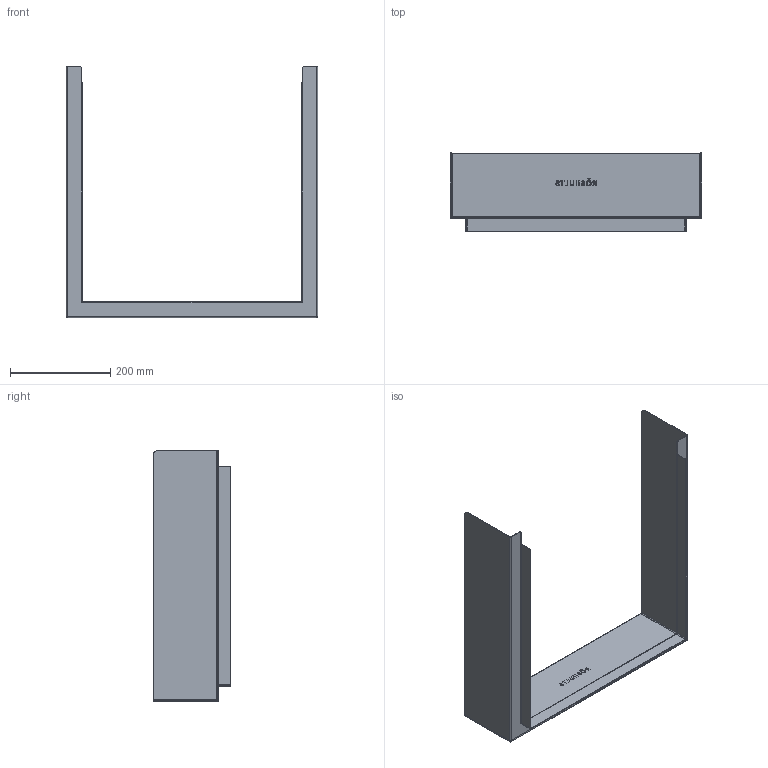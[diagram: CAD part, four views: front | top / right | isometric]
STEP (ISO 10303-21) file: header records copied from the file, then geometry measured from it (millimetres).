
FILE_DESCRIPTION(/* description */ (''),/* implementation_level */ '2;1');
FILE_NAME(/* name */ 'C:\INVENTOR\Workspace\# ARKITEKT FILER\Modules\Windshield\Windshield.stp',/* time_stamp */ '2020-05-28T11:09:48+02:00',/* author */ ('Röshults'),/* organization */ (''),/* preprocessor_version */ 'ST-DEVELOPER v17.2',/* originating_system */ 'Autodesk Inventor 2019',/* authorisation */ '');
FILE_SCHEMA (('AUTOMOTIVE_DESIGN { 1 0 10303 214 3 1 1 }'));
Length unit declared in the file: millimetre
Products named in the file (1): Windshield Cooker Hob
Bounding box: 500 x 155 x 500 mm (x, y, z)
Volume: 404649.7 mm3; surface area: 541327.4 mm2
Topology: 1 solids, 1 shells, 136 faces, 354 edges, 230 vertices
Faces by surface type: plane 90, cylinder 21, bspline 19, sphere 4, torus 2
Entity records: 4511 total; most frequent: CARTESIAN_POINT 1230, ORIENTED_EDGE 708, DIRECTION 594, EDGE_CURVE 354, LINE 270, VECTOR 270, VERTEX_POINT 230, AXIS2_PLACEMENT_3D 162
